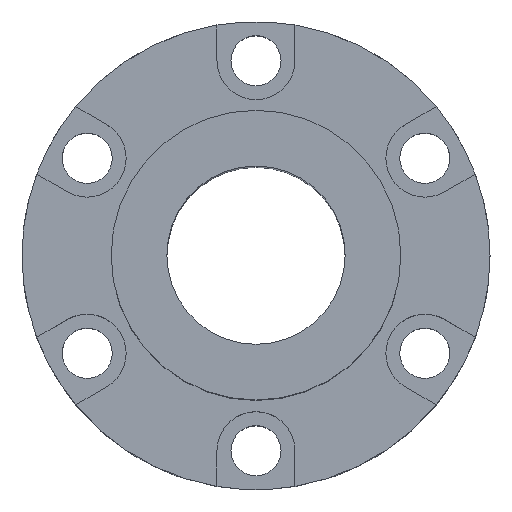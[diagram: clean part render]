
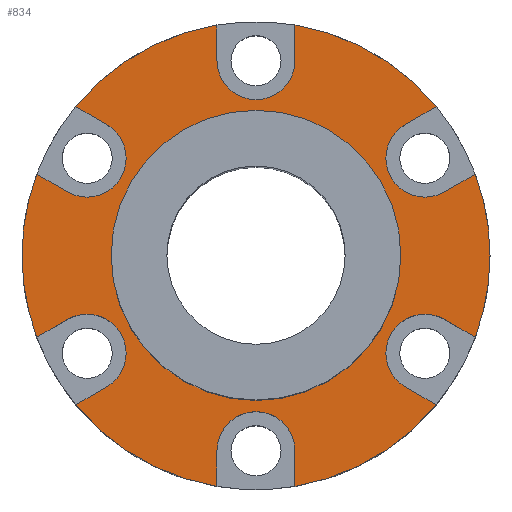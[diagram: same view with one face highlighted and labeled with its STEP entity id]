
A CAD part, top view. The second image highlights one B-rep face of the part: STEP entity #834.
In plain terms, the highlighted planar face has unit normal (0, 0, 1).
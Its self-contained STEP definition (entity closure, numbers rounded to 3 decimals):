
#1=CARTESIAN_POINT('',(0.,0.,17.5));
#2=DIRECTION('',(0.,0.,-1.));
#3=DIRECTION('',(1.,0.,0.));
#4=AXIS2_PLACEMENT_3D('',#1,#2,#3);
#6=CARTESIAN_POINT('',(0.,0.,17.5));
#7=DIRECTION('',(0.,0.,-1.));
#8=DIRECTION('',(-1.,0.,0.));
#9=AXIS2_PLACEMENT_3D('',#6,#7,#8);
#11=CARTESIAN_POINT('',(30.311,17.5,17.5));
#12=DIRECTION('',(0.,0.,1.));
#13=DIRECTION('',(-0.5,0.866,0.));
#14=AXIS2_PLACEMENT_3D('',#11,#12,#13);
#16=DIRECTION('',(-0.866,-0.5,0.));
#17=VECTOR('',#16,6.413);
#18=CARTESIAN_POINT('',(39.364,14.644,17.5));
#19=LINE('',#18,#17);
#20=CARTESIAN_POINT('',(0.,0.,17.5));
#21=DIRECTION('',(0.,0.,1.));
#22=DIRECTION('',(1.,0.,0.));
#23=AXIS2_PLACEMENT_3D('',#20,#21,#22);
#25=CARTESIAN_POINT('',(0.,0.,17.5));
#26=DIRECTION('',(0.,0.,1.));
#27=DIRECTION('',(0.937,-0.349,0.));
#28=AXIS2_PLACEMENT_3D('',#25,#26,#27);
#30=DIRECTION('',(-0.866,0.5,0.));
#31=VECTOR('',#30,6.413);
#32=CARTESIAN_POINT('',(39.364,-14.644,17.5));
#33=LINE('',#32,#31);
#34=CARTESIAN_POINT('',(30.311,-17.5,17.5));
#35=DIRECTION('',(0.,0.,1.));
#36=DIRECTION('',(0.5,0.866,0.));
#37=AXIS2_PLACEMENT_3D('',#34,#35,#36);
#39=DIRECTION('',(0.866,-0.5,0.));
#40=VECTOR('',#39,6.413);
#41=CARTESIAN_POINT('',(26.811,-23.562,17.5));
#42=LINE('',#41,#40);
#43=CARTESIAN_POINT('',(0.,0.,17.5));
#44=DIRECTION('',(0.,0.,1.));
#45=DIRECTION('',(0.167,-0.986,0.));
#46=AXIS2_PLACEMENT_3D('',#43,#44,#45);
#48=DIRECTION('',(0.,1.,0.));
#49=VECTOR('',#48,6.413);
#50=CARTESIAN_POINT('',(7.,-41.413,17.5));
#51=LINE('',#50,#49);
#52=CARTESIAN_POINT('',(0.,-35.,17.5));
#53=DIRECTION('',(0.,0.,1.));
#54=DIRECTION('',(1.,0.,0.));
#55=AXIS2_PLACEMENT_3D('',#52,#53,#54);
#57=DIRECTION('',(0.,1.,0.));
#58=VECTOR('',#57,6.413);
#59=CARTESIAN_POINT('',(-7.,-41.413,17.5));
#60=LINE('',#59,#58);
#61=CARTESIAN_POINT('',(0.,0.,17.5));
#62=DIRECTION('',(0.,0.,1.));
#63=DIRECTION('',(-0.771,-0.637,0.));
#64=AXIS2_PLACEMENT_3D('',#61,#62,#63);
#66=DIRECTION('',(0.866,0.5,0.));
#67=VECTOR('',#66,6.413);
#68=CARTESIAN_POINT('',(-32.364,-26.768,17.5));
#69=LINE('',#68,#67);
#70=CARTESIAN_POINT('',(-30.311,-17.5,17.5));
#71=DIRECTION('',(0.,0.,1.));
#72=DIRECTION('',(0.5,-0.866,0.));
#73=AXIS2_PLACEMENT_3D('',#70,#71,#72);
#75=DIRECTION('',(0.866,0.5,0.));
#76=VECTOR('',#75,6.413);
#77=CARTESIAN_POINT('',(-39.364,-14.644,17.5));
#78=LINE('',#77,#76);
#79=CARTESIAN_POINT('',(0.,0.,17.5));
#80=DIRECTION('',(0.,0.,1.));
#81=DIRECTION('',(-1.,0.,0.));
#82=AXIS2_PLACEMENT_3D('',#79,#80,#81);
#84=CARTESIAN_POINT('',(0.,0.,17.5));
#85=DIRECTION('',(0.,0.,1.));
#86=DIRECTION('',(-0.937,0.349,0.));
#87=AXIS2_PLACEMENT_3D('',#84,#85,#86);
#89=DIRECTION('',(0.866,-0.5,0.));
#90=VECTOR('',#89,6.413);
#91=CARTESIAN_POINT('',(-39.364,14.644,17.5));
#92=LINE('',#91,#90);
#93=CARTESIAN_POINT('',(-30.311,17.5,17.5));
#94=DIRECTION('',(0.,0.,1.));
#95=DIRECTION('',(-0.5,-0.866,0.));
#96=AXIS2_PLACEMENT_3D('',#93,#94,#95);
#98=DIRECTION('',(-0.866,0.5,0.));
#99=VECTOR('',#98,6.413);
#100=CARTESIAN_POINT('',(-26.811,23.562,17.5));
#101=LINE('',#100,#99);
#102=CARTESIAN_POINT('',(0.,0.,17.5));
#103=DIRECTION('',(0.,0.,1.));
#104=DIRECTION('',(-0.167,0.986,0.));
#105=AXIS2_PLACEMENT_3D('',#102,#103,#104);
#107=DIRECTION('',(0.,-1.,0.));
#108=VECTOR('',#107,6.413);
#109=CARTESIAN_POINT('',(-7.,41.413,17.5));
#110=LINE('',#109,#108);
#111=CARTESIAN_POINT('',(0.,35.,17.5));
#112=DIRECTION('',(0.,0.,1.));
#113=DIRECTION('',(-1.,0.,0.));
#114=AXIS2_PLACEMENT_3D('',#111,#112,#113);
#116=DIRECTION('',(0.,-1.,0.));
#117=VECTOR('',#116,6.413);
#118=CARTESIAN_POINT('',(7.,41.413,17.5));
#119=LINE('',#118,#117);
#120=CARTESIAN_POINT('',(0.,0.,17.5));
#121=DIRECTION('',(0.,0.,1.));
#122=DIRECTION('',(0.771,0.637,0.));
#123=AXIS2_PLACEMENT_3D('',#120,#121,#122);
#125=DIRECTION('',(-0.866,-0.5,0.));
#126=VECTOR('',#125,6.413);
#127=CARTESIAN_POINT('',(32.364,26.768,17.5));
#128=LINE('',#127,#126);
#601=CARTESIAN_POINT('',(-42.,0.,17.5));
#603=VERTEX_POINT('',#601);
#605=CARTESIAN_POINT('',(42.,0.,17.5));
#607=VERTEX_POINT('',#605);
#637=CARTESIAN_POINT('',(33.811,-11.438,17.5));
#638=CARTESIAN_POINT('',(26.811,-23.562,17.5));
#639=VERTEX_POINT('',#637);
#640=VERTEX_POINT('',#638);
#641=CARTESIAN_POINT('',(32.364,-26.768,17.5));
#642=VERTEX_POINT('',#641);
#643=CARTESIAN_POINT('',(39.364,-14.644,17.5));
#644=VERTEX_POINT('',#643);
#657=CARTESIAN_POINT('',(7.,-35.,17.5));
#658=CARTESIAN_POINT('',(-7.,-35.,17.5));
#659=VERTEX_POINT('',#657);
#660=VERTEX_POINT('',#658);
#661=CARTESIAN_POINT('',(-7.,-41.413,17.5));
#662=VERTEX_POINT('',#661);
#663=CARTESIAN_POINT('',(7.,-41.413,17.5));
#664=VERTEX_POINT('',#663);
#677=CARTESIAN_POINT('',(-26.811,-23.562,17.5));
#678=CARTESIAN_POINT('',(-33.811,-11.438,17.5));
#679=VERTEX_POINT('',#677);
#680=VERTEX_POINT('',#678);
#681=CARTESIAN_POINT('',(-39.364,-14.644,17.5));
#682=VERTEX_POINT('',#681);
#683=CARTESIAN_POINT('',(-32.364,-26.768,17.5));
#684=VERTEX_POINT('',#683);
#697=CARTESIAN_POINT('',(-33.811,11.438,17.5));
#698=CARTESIAN_POINT('',(-26.811,23.562,17.5));
#699=VERTEX_POINT('',#697);
#700=VERTEX_POINT('',#698);
#701=CARTESIAN_POINT('',(-32.364,26.768,17.5));
#702=VERTEX_POINT('',#701);
#703=CARTESIAN_POINT('',(-39.364,14.644,17.5));
#704=VERTEX_POINT('',#703);
#717=CARTESIAN_POINT('',(-7.,35.,17.5));
#718=CARTESIAN_POINT('',(7.,35.,17.5));
#719=VERTEX_POINT('',#717);
#720=VERTEX_POINT('',#718);
#721=CARTESIAN_POINT('',(7.,41.413,17.5));
#722=VERTEX_POINT('',#721);
#723=CARTESIAN_POINT('',(-7.,41.413,17.5));
#724=VERTEX_POINT('',#723);
#737=CARTESIAN_POINT('',(26.811,23.562,17.5));
#738=CARTESIAN_POINT('',(33.811,11.438,17.5));
#739=VERTEX_POINT('',#737);
#740=VERTEX_POINT('',#738);
#741=CARTESIAN_POINT('',(39.364,14.644,17.5));
#742=VERTEX_POINT('',#741);
#743=CARTESIAN_POINT('',(32.364,26.768,17.5));
#744=VERTEX_POINT('',#743);
#762=CARTESIAN_POINT('',(26.,0.,17.5));
#764=VERTEX_POINT('',#762);
#766=CARTESIAN_POINT('',(-26.,0.,17.5));
#768=VERTEX_POINT('',#766);
#769=CARTESIAN_POINT('',(0.,0.,17.5));
#770=DIRECTION('',(0.,0.,1.));
#771=DIRECTION('',(1.,0.,0.));
#772=AXIS2_PLACEMENT_3D('',#769,#770,#771);
#773=PLANE('',#772);
#775=ORIENTED_EDGE('',*,*,#774,.T.);
#777=ORIENTED_EDGE('',*,*,#776,.F.);
#779=ORIENTED_EDGE('',*,*,#778,.F.);
#781=ORIENTED_EDGE('',*,*,#780,.F.);
#783=ORIENTED_EDGE('',*,*,#782,.T.);
#785=ORIENTED_EDGE('',*,*,#784,.T.);
#787=ORIENTED_EDGE('',*,*,#786,.T.);
#789=ORIENTED_EDGE('',*,*,#788,.F.);
#791=ORIENTED_EDGE('',*,*,#790,.T.);
#793=ORIENTED_EDGE('',*,*,#792,.T.);
#795=ORIENTED_EDGE('',*,*,#794,.F.);
#797=ORIENTED_EDGE('',*,*,#796,.F.);
#799=ORIENTED_EDGE('',*,*,#798,.T.);
#801=ORIENTED_EDGE('',*,*,#800,.T.);
#803=ORIENTED_EDGE('',*,*,#802,.F.);
#805=ORIENTED_EDGE('',*,*,#804,.F.);
#807=ORIENTED_EDGE('',*,*,#806,.F.);
#809=ORIENTED_EDGE('',*,*,#808,.T.);
#811=ORIENTED_EDGE('',*,*,#810,.T.);
#813=ORIENTED_EDGE('',*,*,#812,.T.);
#815=ORIENTED_EDGE('',*,*,#814,.F.);
#817=ORIENTED_EDGE('',*,*,#816,.T.);
#819=ORIENTED_EDGE('',*,*,#818,.T.);
#821=ORIENTED_EDGE('',*,*,#820,.F.);
#823=ORIENTED_EDGE('',*,*,#822,.F.);
#825=ORIENTED_EDGE('',*,*,#824,.T.);
#826=EDGE_LOOP('',(#775,#777,#779,#781,#783,#785,#787,#789,#791,#793,#795,#797,
#799,#801,#803,#805,#807,#809,#811,#813,#815,#817,#819,#821,#823,#825));
#827=FACE_OUTER_BOUND('',#826,.F.);
#829=ORIENTED_EDGE('',*,*,#828,.F.);
#831=ORIENTED_EDGE('',*,*,#830,.F.);
#832=EDGE_LOOP('',(#829,#831));
#833=FACE_BOUND('',#832,.F.);
#834=ADVANCED_FACE('',(#827,#833),#773,.T.);
#5=CIRCLE('',#4,26.);
#10=CIRCLE('',#9,26.);
#15=CIRCLE('',#14,7.);
#24=CIRCLE('',#23,42.);
#29=CIRCLE('',#28,42.);
#38=CIRCLE('',#37,7.);
#47=CIRCLE('',#46,42.);
#56=CIRCLE('',#55,7.);
#65=CIRCLE('',#64,42.);
#74=CIRCLE('',#73,7.);
#83=CIRCLE('',#82,42.);
#88=CIRCLE('',#87,42.);
#97=CIRCLE('',#96,7.);
#106=CIRCLE('',#105,42.);
#115=CIRCLE('',#114,7.);
#124=CIRCLE('',#123,42.);
#774=EDGE_CURVE('',#739,#740,#15,.T.);
#776=EDGE_CURVE('',#742,#740,#19,.T.);
#778=EDGE_CURVE('',#607,#742,#24,.T.);
#780=EDGE_CURVE('',#644,#607,#29,.T.);
#782=EDGE_CURVE('',#644,#639,#33,.T.);
#784=EDGE_CURVE('',#639,#640,#38,.T.);
#786=EDGE_CURVE('',#640,#642,#42,.T.);
#788=EDGE_CURVE('',#664,#642,#47,.T.);
#790=EDGE_CURVE('',#664,#659,#51,.T.);
#792=EDGE_CURVE('',#659,#660,#56,.T.);
#794=EDGE_CURVE('',#662,#660,#60,.T.);
#796=EDGE_CURVE('',#684,#662,#65,.T.);
#798=EDGE_CURVE('',#684,#679,#69,.T.);
#800=EDGE_CURVE('',#679,#680,#74,.T.);
#802=EDGE_CURVE('',#682,#680,#78,.T.);
#804=EDGE_CURVE('',#603,#682,#83,.T.);
#806=EDGE_CURVE('',#704,#603,#88,.T.);
#808=EDGE_CURVE('',#704,#699,#92,.T.);
#810=EDGE_CURVE('',#699,#700,#97,.T.);
#812=EDGE_CURVE('',#700,#702,#101,.T.);
#814=EDGE_CURVE('',#724,#702,#106,.T.);
#816=EDGE_CURVE('',#724,#719,#110,.T.);
#818=EDGE_CURVE('',#719,#720,#115,.T.);
#820=EDGE_CURVE('',#722,#720,#119,.T.);
#822=EDGE_CURVE('',#744,#722,#124,.T.);
#824=EDGE_CURVE('',#744,#739,#128,.T.);
#828=EDGE_CURVE('',#764,#768,#5,.T.);
#830=EDGE_CURVE('',#768,#764,#10,.T.);
